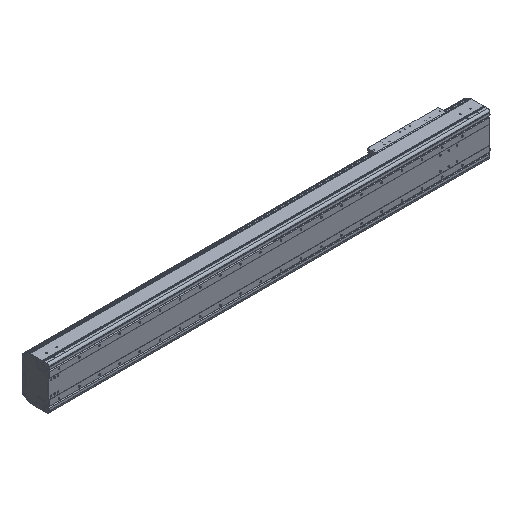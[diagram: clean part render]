
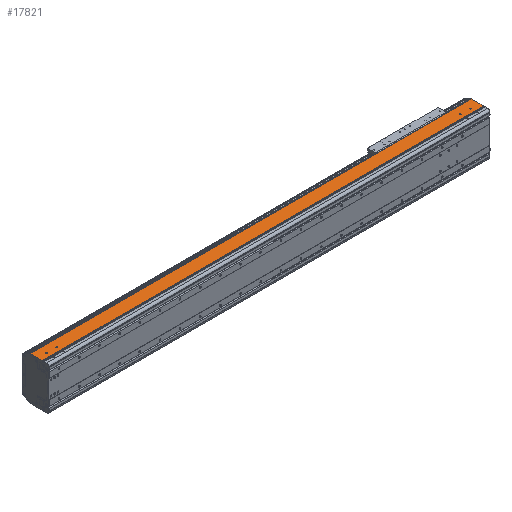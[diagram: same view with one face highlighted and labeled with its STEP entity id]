
A CAD part, isometric view. The second image highlights one B-rep face of the part: STEP entity #17821.
In plain terms, the highlighted planar face has unit normal (0, 0, 1).
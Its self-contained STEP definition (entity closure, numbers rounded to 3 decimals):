
#681=DIRECTION('',(1.,0.,0.));
#682=VECTOR('',#681,2.);
#683=CARTESIAN_POINT('',(-2186.,34.65,107.));
#684=LINE('',#683,#682);
#685=CARTESIAN_POINT('',(-42.,54.,107.));
#686=DIRECTION('',(0.,0.,-1.));
#687=DIRECTION('',(1.,0.,0.));
#688=AXIS2_PLACEMENT_3D('',#685,#686,#687);
#690=CARTESIAN_POINT('',(-42.,54.,107.));
#691=DIRECTION('',(0.,0.,-1.));
#692=DIRECTION('',(-1.,0.,0.));
#693=AXIS2_PLACEMENT_3D('',#690,#691,#692);
#695=CARTESIAN_POINT('',(-92.,54.,107.));
#696=DIRECTION('',(0.,0.,-1.));
#697=DIRECTION('',(1.,0.,0.));
#698=AXIS2_PLACEMENT_3D('',#695,#696,#697);
#700=CARTESIAN_POINT('',(-92.,54.,107.));
#701=DIRECTION('',(0.,0.,-1.));
#702=DIRECTION('',(-1.,0.,0.));
#703=AXIS2_PLACEMENT_3D('',#700,#701,#702);
#705=CARTESIAN_POINT('',(-2144.,54.,107.));
#706=DIRECTION('',(0.,0.,-1.));
#707=DIRECTION('',(1.,0.,0.));
#708=AXIS2_PLACEMENT_3D('',#705,#706,#707);
#710=CARTESIAN_POINT('',(-2144.,54.,107.));
#711=DIRECTION('',(0.,0.,-1.));
#712=DIRECTION('',(-1.,0.,0.));
#713=AXIS2_PLACEMENT_3D('',#710,#711,#712);
#715=CARTESIAN_POINT('',(-2094.,54.,107.));
#716=DIRECTION('',(0.,0.,-1.));
#717=DIRECTION('',(1.,0.,0.));
#718=AXIS2_PLACEMENT_3D('',#715,#716,#717);
#720=CARTESIAN_POINT('',(-2094.,54.,107.));
#721=DIRECTION('',(0.,0.,-1.));
#722=DIRECTION('',(-1.,0.,0.));
#723=AXIS2_PLACEMENT_3D('',#720,#721,#722);
#725=DIRECTION('',(0.,-1.,0.));
#726=VECTOR('',#725,2.55);
#727=CARTESIAN_POINT('',(-2184.,34.65,107.));
#728=LINE('',#727,#726);
#729=DIRECTION('',(0.,-1.,0.));
#730=VECTOR('',#729,58.85);
#731=CARTESIAN_POINT('',(-2186.,93.5,107.));
#732=LINE('',#731,#730);
#733=DIRECTION('',(0.,1.,0.));
#734=VECTOR('',#733,58.85);
#735=CARTESIAN_POINT('',(2.,34.65,107.));
#736=LINE('',#735,#734);
#737=DIRECTION('',(0.,1.,0.));
#738=VECTOR('',#737,2.55);
#739=CARTESIAN_POINT('',(0.,32.1,107.));
#740=LINE('',#739,#738);
#845=DIRECTION('',(-1.,0.,0.));
#846=VECTOR('',#845,2188.);
#847=CARTESIAN_POINT('',(2.,93.5,107.));
#848=LINE('',#847,#846);
#1697=DIRECTION('',(1.,0.,0.));
#1698=VECTOR('',#1697,2.);
#1699=CARTESIAN_POINT('',(0.,34.65,107.));
#1700=LINE('',#1699,#1698);
#12937=DIRECTION('',(1.,0.,0.));
#12938=VECTOR('',#12937,2184.);
#12939=CARTESIAN_POINT('',(-2184.,32.1,107.));
#12940=LINE('',#12939,#12938);
#13479=CARTESIAN_POINT('',(-2186.,34.65,107.));
#13480=VERTEX_POINT('',#13479);
#13481=CARTESIAN_POINT('',(-2186.,93.5,107.));
#13482=VERTEX_POINT('',#13481);
#13703=CARTESIAN_POINT('',(-2184.,32.1,107.));
#13704=VERTEX_POINT('',#13703);
#13775=CARTESIAN_POINT('',(0.,32.1,107.));
#13776=VERTEX_POINT('',#13775);
#14341=CARTESIAN_POINT('',(-39.5,54.,107.));
#14342=CARTESIAN_POINT('',(-44.5,54.,107.));
#14343=VERTEX_POINT('',#14341);
#14344=VERTEX_POINT('',#14342);
#14345=CARTESIAN_POINT('',(-89.5,54.,107.));
#14346=CARTESIAN_POINT('',(-94.5,54.,107.));
#14347=VERTEX_POINT('',#14345);
#14348=VERTEX_POINT('',#14346);
#14349=CARTESIAN_POINT('',(-2141.5,54.,107.));
#14350=CARTESIAN_POINT('',(-2146.5,54.,107.));
#14351=VERTEX_POINT('',#14349);
#14352=VERTEX_POINT('',#14350);
#14353=CARTESIAN_POINT('',(-2091.5,54.,107.));
#14354=CARTESIAN_POINT('',(-2096.5,54.,107.));
#14355=VERTEX_POINT('',#14353);
#14356=VERTEX_POINT('',#14354);
#15673=CARTESIAN_POINT('',(2.,34.65,107.));
#15674=VERTEX_POINT('',#15673);
#15675=CARTESIAN_POINT('',(2.,93.5,107.));
#15676=VERTEX_POINT('',#15675);
#15895=CARTESIAN_POINT('',(0.,34.65,107.));
#15896=VERTEX_POINT('',#15895);
#16207=CARTESIAN_POINT('',(-2184.,34.65,107.));
#16208=VERTEX_POINT('',#16207);
#17777=CARTESIAN_POINT('',(-1092.,62.8,107.));
#17778=DIRECTION('',(0.,0.,1.));
#17779=DIRECTION('',(0.,-1.,0.));
#17780=AXIS2_PLACEMENT_3D('',#17777,#17778,#17779);
#17781=PLANE('',#17780);
#17782=ORIENTED_EDGE('',*,*,#17140,.F.);
#17783=ORIENTED_EDGE('',*,*,#17772,.F.);
#17784=ORIENTED_EDGE('',*,*,#17014,.F.);
#17786=ORIENTED_EDGE('',*,*,#17785,.F.);
#17788=ORIENTED_EDGE('',*,*,#17787,.F.);
#17790=ORIENTED_EDGE('',*,*,#17789,.F.);
#17792=ORIENTED_EDGE('',*,*,#17791,.F.);
#17794=ORIENTED_EDGE('',*,*,#17793,.F.);
#17795=EDGE_LOOP('',(#17782,#17783,#17784,#17786,#17788,#17790,#17792,#17794));
#17796=FACE_OUTER_BOUND('',#17795,.F.);
#17798=ORIENTED_EDGE('',*,*,#17797,.F.);
#17800=ORIENTED_EDGE('',*,*,#17799,.F.);
#17801=EDGE_LOOP('',(#17798,#17800));
#17802=FACE_BOUND('',#17801,.F.);
#17804=ORIENTED_EDGE('',*,*,#17803,.F.);
#17806=ORIENTED_EDGE('',*,*,#17805,.F.);
#17807=EDGE_LOOP('',(#17804,#17806));
#17808=FACE_BOUND('',#17807,.F.);
#17810=ORIENTED_EDGE('',*,*,#17809,.F.);
#17812=ORIENTED_EDGE('',*,*,#17811,.F.);
#17813=EDGE_LOOP('',(#17810,#17812));
#17814=FACE_BOUND('',#17813,.F.);
#17816=ORIENTED_EDGE('',*,*,#17815,.F.);
#17818=ORIENTED_EDGE('',*,*,#17817,.F.);
#17819=EDGE_LOOP('',(#17816,#17818));
#17820=FACE_BOUND('',#17819,.F.);
#17821=ADVANCED_FACE('',(#17796,#17802,#17808,#17814,#17820),#17781,.T.);
#689=CIRCLE('',#688,2.5);
#694=CIRCLE('',#693,2.5);
#699=CIRCLE('',#698,2.5);
#704=CIRCLE('',#703,2.5);
#709=CIRCLE('',#708,2.5);
#714=CIRCLE('',#713,2.5);
#719=CIRCLE('',#718,2.5);
#724=CIRCLE('',#723,2.5);
#17014=EDGE_CURVE('',#13482,#13480,#732,.T.);
#17140=EDGE_CURVE('',#16208,#13704,#728,.T.);
#17772=EDGE_CURVE('',#13480,#16208,#684,.T.);
#17785=EDGE_CURVE('',#15676,#13482,#848,.T.);
#17787=EDGE_CURVE('',#15674,#15676,#736,.T.);
#17789=EDGE_CURVE('',#15896,#15674,#1700,.T.);
#17791=EDGE_CURVE('',#13776,#15896,#740,.T.);
#17793=EDGE_CURVE('',#13704,#13776,#12940,.T.);
#17797=EDGE_CURVE('',#14347,#14348,#699,.T.);
#17799=EDGE_CURVE('',#14348,#14347,#704,.T.);
#17803=EDGE_CURVE('',#14351,#14352,#709,.T.);
#17805=EDGE_CURVE('',#14352,#14351,#714,.T.);
#17809=EDGE_CURVE('',#14355,#14356,#719,.T.);
#17811=EDGE_CURVE('',#14356,#14355,#724,.T.);
#17815=EDGE_CURVE('',#14343,#14344,#689,.T.);
#17817=EDGE_CURVE('',#14344,#14343,#694,.T.);
